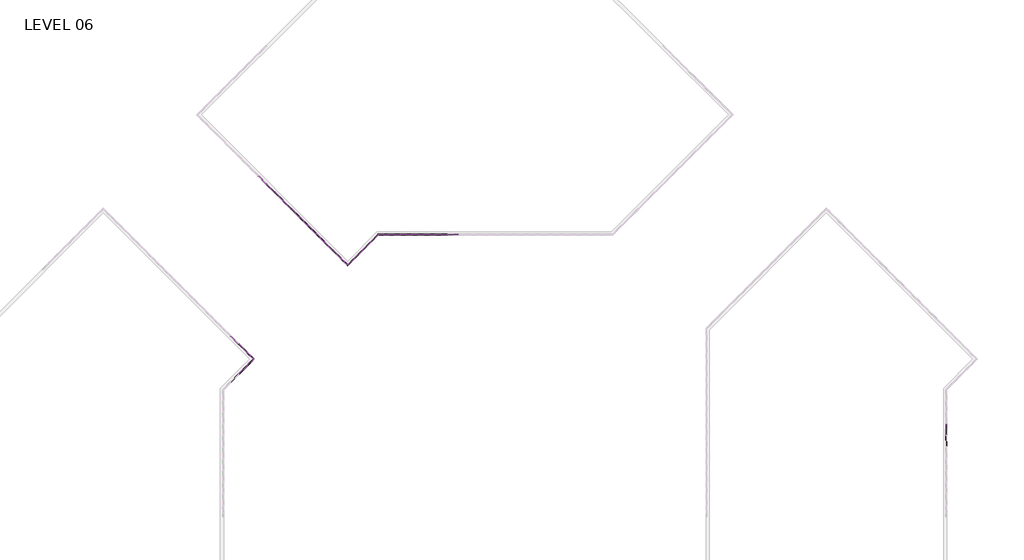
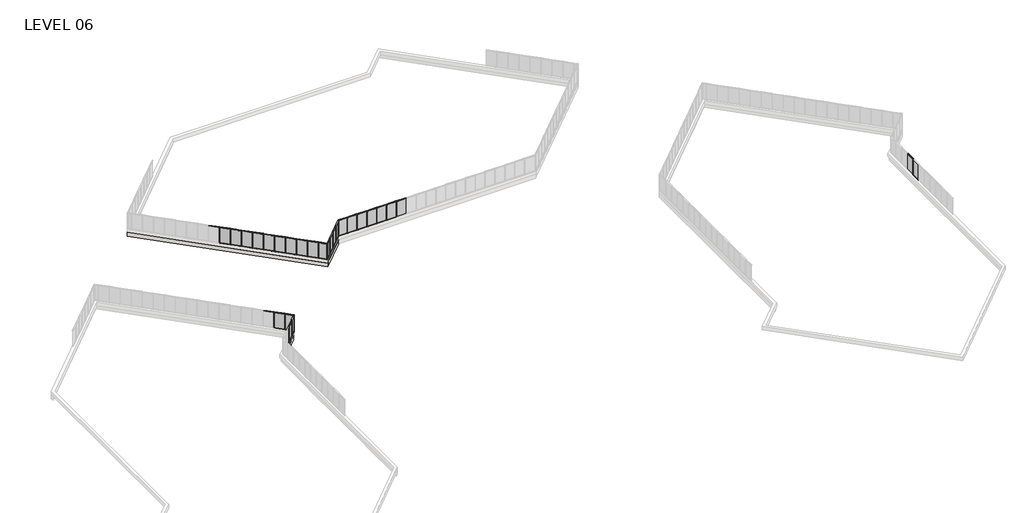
# One storey, part 12 of 17: 84 members, 27 plates, 3 walls.
"""IFC4 building model written with IfcOpenShell, lengths in millimetres."""

from ifc_helpers import new_model, si_unit, frame, origin, place, context, project, spatial, polyline, outline, extrude, faceted_brep, transform, mapped, element, save
from components import member_5247f267, member_e44af9ab, member_800970d4, member_45eb7f2e, member_910c08c9, member_dd9f6d43, plate_67294edd, plate_9c66726c, plate_88df3e37, plate_c3b8b83d, plate_129ab9d0, plate_6ecefdb5

model = new_model("IFC4")

# Units and contexts
model_context = context("Model", 3, world=origin())
ifc_project = project(units=[si_unit("LENGTHUNIT", "METRE", prefix="MILLI")], contexts=[model_context])

# Site, building, storey
site = spatial("IfcSite", under=ifc_project)
building = spatial("IfcBuilding", under=site)
storey = spatial("IfcBuildingStorey", under=building, Name="LEVEL 06", Elevation=19596.1)

# Members
placement = place(None, origin())
member_shape = member_5247f267(model_context)
element("IfcMember", 1, ObjectType="Rectangular Mullion : 2\" x 4.5\" rectangular", at=placement, inside=storey, context=model_context, shape_type="MappedRepresentation", body=[
    mapped(member_shape, transform((6200.5095063, 93365.536663, 19596.1), x_axis=(0.0, 0.0, -1.0), y_axis=(-0.7071067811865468, -0.7071067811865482, 0.0), z_axis=(-0.7071067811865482, 0.7071067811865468, 0.0))),
])
element("IfcMember", 2, ObjectType="Rectangular Mullion : 2\" x 4.5\" rectangular", at=placement, inside=storey, context=model_context, shape_type="MappedRepresentation", body=[
    mapped(member_shape, transform((7278.1402408, 92287.9059285, 19596.1), x_axis=(0.0, 0.0, -1.0), y_axis=(-0.7071067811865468, -0.7071067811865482, 0.0), z_axis=(-0.7071067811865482, 0.7071067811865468, 0.0))),
])
element("IfcMember", 3, ObjectType="Rectangular Mullion : 2\" x 4.5\" rectangular", at=placement, inside=storey, context=model_context, shape_type="MappedRepresentation", body=[
    mapped(member_shape, transform((8355.7709754, 91210.2751939, 19596.1), x_axis=(0.0, 0.0, -1.0), y_axis=(-0.7071067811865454, -0.7071067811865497, 0.0), z_axis=(-0.7071067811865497, 0.7071067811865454, 0.0))),
])
element("IfcMember", 4, ObjectType="Rectangular Mullion : 2\" x 4.5\" rectangular", at=placement, inside=storey, context=model_context, shape_type="MappedRepresentation", body=[
    mapped(member_shape, transform((9433.4017099, 90132.6444594, 19596.1), x_axis=(0.0, 0.0, -1.0), y_axis=(-0.7071067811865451, -0.7071067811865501, 0.0), z_axis=(-0.7071067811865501, 0.7071067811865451, 0.0))),
])
element("IfcMember", 5, ObjectType="Rectangular Mullion : 2\" x 4.5\" rectangular", at=placement, inside=storey, context=model_context, shape_type="MappedRepresentation", body=[
    mapped(member_shape, transform((10511.0324444, 89055.0137249, 19596.1), x_axis=(0.0, 0.0, -1.0), y_axis=(-0.7071067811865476, -0.7071067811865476, 0.0), z_axis=(-0.7071067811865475, 0.7071067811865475, 0.0))),
])
element("IfcMember", 6, ObjectType="Rectangular Mullion : 2\" x 4.5\" rectangular", at=placement, inside=storey, context=model_context, shape_type="MappedRepresentation", body=[
    mapped(member_shape, transform((11588.663179, 87977.3829903, 19596.1), x_axis=(0.0, 0.0, -1.0), y_axis=(-0.7071067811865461, -0.707106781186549, 0.0), z_axis=(-0.707106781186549, 0.7071067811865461, 0.0))),
])
element("IfcMember", 7, ObjectType="Rectangular Mullion : 2\" x 4.5\" rectangular", at=placement, inside=storey, context=model_context, shape_type="MappedRepresentation", body=[
    mapped(member_shape, transform((12666.2939135, 86899.7522558, 19596.1), x_axis=(0.0, 0.0, -1.0), y_axis=(-0.7071067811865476, -0.7071067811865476, 0.0), z_axis=(-0.7071067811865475, 0.7071067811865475, 0.0))),
])
element("IfcMember", 8, ObjectType="Rectangular Mullion : 2\" x 4.5\" rectangular", at=placement, inside=storey, context=model_context, shape_type="MappedRepresentation", body=[
    mapped(member_shape, transform((15463.8924855, 85858.0386548, 19596.1), x_axis=(0.0, 0.0, -1.0), y_axis=(0.7071067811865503, -0.7071067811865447, 0.0), z_axis=(-0.7071067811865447, -0.7071067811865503, 0.0))),
])
element("IfcMember", 9, ObjectType="Rectangular Mullion : 2\" x 4.5\" rectangular", at=placement, inside=storey, context=model_context, shape_type="MappedRepresentation", body=[
    mapped(member_shape, transform((16541.5232201, 86935.6693894, 19596.1), x_axis=(0.0, 0.0, -1.0), y_axis=(0.7071067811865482, -0.7071067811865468, 0.0), z_axis=(-0.7071067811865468, -0.7071067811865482, 0.0))),
])
element("IfcMember", 10, ObjectType="Rectangular Mullion : 2\" x 4.5\" rectangular", at=placement, inside=storey, context=model_context, shape_type="MappedRepresentation", body=[
    mapped(member_shape, transform((27514.55, 88955.8023049, 19596.1), x_axis=(0.0, 0.0, -1.0), y_axis=(0.0, 1.0, 0.0), z_axis=(1.0, 0.0, 0.0))),
])
element("IfcMember", 11, ObjectType="Rectangular Mullion : 2\" x 4.5\" rectangular", at=placement, inside=storey, context=model_context, shape_type="MappedRepresentation", body=[
    mapped(member_shape, transform((24466.55, 88955.8023049, 19596.1), x_axis=(0.0, 0.0, -1.0), y_axis=(0.0, 1.0, 0.0), z_axis=(1.0, 0.0, 0.0))),
])
element("IfcMember", 12, ObjectType="Rectangular Mullion : 2\" x 4.5\" rectangular", at=placement, inside=storey, context=model_context, shape_type="MappedRepresentation", body=[
    mapped(member_shape, transform((22942.55, 88955.8023049, 19596.1), x_axis=(0.0, 0.0, -1.0), y_axis=(0.0, 1.0, 0.0), z_axis=(1.0, 0.0, 0.0))),
])
element("IfcMember", 13, ObjectType="Rectangular Mullion : 2\" x 4.5\" rectangular", at=placement, inside=storey, context=model_context, shape_type="MappedRepresentation", body=[
    mapped(member_shape, transform((21418.55, 88955.8023049, 19596.1), x_axis=(0.0, 0.0, -1.0), y_axis=(0.0, 1.0, 0.0), z_axis=(1.0, 0.0, 0.0))),
])
element("IfcMember", 14, ObjectType="Rectangular Mullion : 2\" x 4.5\" rectangular", at=placement, inside=storey, context=model_context, shape_type="MappedRepresentation", body=[
    mapped(member_shape, transform((25990.55, 88955.8023049, 19596.1), x_axis=(0.0, 0.0, -1.0), y_axis=(0.0, 1.0, 0.0), z_axis=(1.0, 0.0, 0.0))),
])
element("IfcMember", 15, ObjectType="Rectangular Mullion : 2\" x 4.5\" rectangular", at=placement, inside=storey, context=model_context, shape_type="MappedRepresentation", body=[
    mapped(member_shape, transform((4009.6843581, 95556.3618112, 22186.9), x_axis=(0.0, 0.0, 1.0), y_axis=(-0.7071067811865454, -0.7071067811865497, 0.0), z_axis=(0.7071067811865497, -0.7071067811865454, 0.0))),
])
element("IfcMember", 16, ObjectType="Rectangular Mullion : 2\" x 4.5\" rectangular", at=placement, inside=storey, context=model_context, shape_type="MappedRepresentation", body=[
    mapped(member_shape, transform((7242.2192164, 92323.8269529, 22186.9), x_axis=(0.0, 0.0, 1.0), y_axis=(-0.7071067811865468, -0.7071067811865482, 0.0), z_axis=(0.7071067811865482, -0.7071067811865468, 0.0))),
])
element("IfcMember", 17, ObjectType="Rectangular Mullion : 2\" x 4.5\" rectangular", at=placement, inside=storey, context=model_context, shape_type="MappedRepresentation", body=[
    mapped(member_shape, transform((8319.8499509, 91246.1962184, 22186.9), x_axis=(0.0, 0.0, 1.0), y_axis=(-0.7071067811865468, -0.7071067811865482, 0.0), z_axis=(0.7071067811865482, -0.7071067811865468, 0.0))),
])
element("IfcMember", 18, ObjectType="Rectangular Mullion : 2\" x 4.5\" rectangular", at=placement, inside=storey, context=model_context, shape_type="MappedRepresentation", body=[
    mapped(member_shape, transform((9397.4806854, 90168.5654839, 22186.9), x_axis=(0.0, 0.0, 1.0), y_axis=(-0.7071067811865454, -0.7071067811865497, 0.0), z_axis=(0.7071067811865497, -0.7071067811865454, 0.0))),
])
element("IfcMember", 19, ObjectType="Rectangular Mullion : 2\" x 4.5\" rectangular", at=placement, inside=storey, context=model_context, shape_type="MappedRepresentation", body=[
    mapped(member_shape, transform((10475.1114199, 89090.9347494, 22186.9), x_axis=(0.0, 0.0, 1.0), y_axis=(-0.7071067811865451, -0.7071067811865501, 0.0), z_axis=(0.7071067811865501, -0.7071067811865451, 0.0))),
])
element("IfcMember", 20, ObjectType="Rectangular Mullion : 2\" x 4.5\" rectangular", at=placement, inside=storey, context=model_context, shape_type="MappedRepresentation", body=[
    mapped(member_shape, transform((11552.7421545, 88013.3040148, 22186.9), x_axis=(0.0, 0.0, 1.0), y_axis=(-0.7071067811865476, -0.7071067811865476, 0.0), z_axis=(0.7071067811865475, -0.7071067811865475, 0.0))),
])
element("IfcMember", 21, ObjectType="Rectangular Mullion : 2\" x 4.5\" rectangular", at=placement, inside=storey, context=model_context, shape_type="MappedRepresentation", body=[
    mapped(member_shape, transform((12630.372889, 86935.6732803, 22186.9), x_axis=(0.0, 0.0, 1.0), y_axis=(-0.7071067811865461, -0.707106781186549, 0.0), z_axis=(0.707106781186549, -0.7071067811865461, 0.0))),
])
element("IfcMember", 22, ObjectType="Rectangular Mullion : 2\" x 4.5\" rectangular", at=placement, inside=storey, context=model_context, shape_type="MappedRepresentation", body=[
    mapped(member_shape, transform((13708.0036235, 85858.0425458, 22186.9), x_axis=(0.0, 0.0, 1.0), y_axis=(-0.7071067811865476, -0.7071067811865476, 0.0), z_axis=(0.7071067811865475, -0.7071067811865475, 0.0))),
])
element("IfcMember", 23, ObjectType="Rectangular Mullion : 2\" x 4.5\" rectangular", at=placement, inside=storey, context=model_context, shape_type="MappedRepresentation", body=[
    mapped(member_shape, transform((17583.2329301, 87977.3790994, 22186.9), x_axis=(0.0, 0.0, 1.0), y_axis=(0.7071067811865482, -0.7071067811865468, 0.0), z_axis=(0.7071067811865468, 0.7071067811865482, 0.0))),
])
element("IfcMember", 24, ObjectType="Rectangular Mullion : 2\" x 4.5\" rectangular", at=placement, inside=storey, context=model_context, shape_type="MappedRepresentation", body=[
    mapped(member_shape, transform((16505.6021956, 86899.7483649, 22186.9), x_axis=(0.0, 0.0, 1.0), y_axis=(0.7071067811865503, -0.7071067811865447, 0.0), z_axis=(0.7071067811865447, 0.7071067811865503, 0.0))),
])
element("IfcMember", 25, ObjectType="Rectangular Mullion : 2\" x 4.5\" rectangular", at=placement, inside=storey, context=model_context, shape_type="MappedRepresentation", body=[
    mapped(member_shape, transform((27565.35, 88955.8023049, 22186.9), x_axis=(0.0, 0.0, 1.0), y_axis=(0.0, 1.0, 0.0), z_axis=(-1.0, 0.0, 0.0))),
])
element("IfcMember", 26, ObjectType="Rectangular Mullion : 2\" x 4.5\" rectangular", at=placement, inside=storey, context=model_context, shape_type="MappedRepresentation", body=[
    mapped(member_shape, transform((24517.35, 88955.8023049, 22186.9), x_axis=(0.0, 0.0, 1.0), y_axis=(0.0, 1.0, 0.0), z_axis=(-1.0, 0.0, 0.0))),
])
element("IfcMember", 27, ObjectType="Rectangular Mullion : 2\" x 4.5\" rectangular", at=placement, inside=storey, context=model_context, shape_type="MappedRepresentation", body=[
    mapped(member_shape, transform((22993.35, 88955.8023049, 22186.9), x_axis=(0.0, 0.0, 1.0), y_axis=(0.0, 1.0, 0.0), z_axis=(-1.0, 0.0, 0.0))),
])
element("IfcMember", 28, ObjectType="Rectangular Mullion : 2\" x 4.5\" rectangular", at=placement, inside=storey, context=model_context, shape_type="MappedRepresentation", body=[
    mapped(member_shape, transform((21469.35, 88955.8023049, 22186.9), x_axis=(0.0, 0.0, 1.0), y_axis=(0.0, 1.0, 0.0), z_axis=(-1.0, 0.0, 0.0))),
])
element("IfcMember", 29, ObjectType="Rectangular Mullion : 2\" x 4.5\" rectangular", at=placement, inside=storey, context=model_context, shape_type="MappedRepresentation", body=[
    mapped(member_shape, transform((19945.35, 88955.8023049, 22186.9), x_axis=(0.0, 0.0, 1.0), y_axis=(0.0, 1.0, 0.0), z_axis=(-1.0, 0.0, 0.0))),
])
element("IfcMember", 30, ObjectType="Rectangular Mullion : 2\" x 4.5\" rectangular", at=placement, inside=storey, context=model_context, shape_type="MappedRepresentation", body=[
    mapped(member_shape, transform((26041.35, 88955.8023049, 22186.9), x_axis=(0.0, 0.0, 1.0), y_axis=(0.0, 1.0, 0.0), z_axis=(-1.0, 0.0, 0.0))),
])
member_2_shape = member_e44af9ab(model_context)
element("IfcMember", 31, ObjectType="Rectangular Mullion : 2\" x 4.5\" rectangular", at=placement, inside=storey, context=model_context, shape_type="MappedRepresentation", body=[
    mapped(member_2_shape, transform((4027.6448703, 95538.401299, 19596.1), x_axis=(0.7071067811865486, -0.7071067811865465, 0.0), y_axis=(-0.7071067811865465, -0.7071067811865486, 0.0), z_axis=(0.0, 0.0, -1.0))),
])
element("IfcMember", 32, ObjectType="Rectangular Mullion : 2\" x 4.5\" rectangular", at=placement, inside=storey, context=model_context, shape_type="MappedRepresentation", body=[
    mapped(member_2_shape, transform((6182.5489941, 93383.4971752, 19596.1), x_axis=(0.7071067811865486, -0.7071067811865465, 0.0), y_axis=(-0.7071067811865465, -0.7071067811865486, 0.0), z_axis=(0.0, 0.0, -1.0))),
])
element("IfcMember", 33, ObjectType="Rectangular Mullion : 2\" x 4.5\" rectangular", at=placement, inside=storey, context=model_context, shape_type="MappedRepresentation", body=[
    mapped(member_2_shape, transform((7260.1797286, 92305.8664407, 19596.1), x_axis=(0.7071067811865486, -0.7071067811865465, 0.0), y_axis=(-0.7071067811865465, -0.7071067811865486, 0.0), z_axis=(0.0, 0.0, -1.0))),
])
element("IfcMember", 34, ObjectType="Rectangular Mullion : 2\" x 4.5\" rectangular", at=placement, inside=storey, context=model_context, shape_type="MappedRepresentation", body=[
    mapped(member_2_shape, transform((8337.8104631, 91228.2357062, 19596.1), x_axis=(0.7071067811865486, -0.7071067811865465, 0.0), y_axis=(-0.7071067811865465, -0.7071067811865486, 0.0), z_axis=(0.0, 0.0, -1.0))),
])
element("IfcMember", 35, ObjectType="Rectangular Mullion : 2\" x 4.5\" rectangular", at=placement, inside=storey, context=model_context, shape_type="MappedRepresentation", body=[
    mapped(member_2_shape, transform((5105.0969322, 94460.9492371, 19596.1), x_axis=(0.7071067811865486, -0.7071067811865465, 0.0), y_axis=(-0.7071067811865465, -0.7071067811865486, 0.0), z_axis=(0.0, 0.0, -1.0))),
])
element("IfcMember", 36, ObjectType="Rectangular Mullion : 2\" x 4.5\" rectangular", at=placement, inside=storey, context=model_context, shape_type="MappedRepresentation", body=[
    mapped(member_2_shape, transform((9415.4411977, 90150.6049716, 19596.1), x_axis=(0.7071067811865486, -0.7071067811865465, 0.0), y_axis=(-0.7071067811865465, -0.7071067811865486, 0.0), z_axis=(0.0, 0.0, -1.0))),
])
element("IfcMember", 37, ObjectType="Rectangular Mullion : 2\" x 4.5\" rectangular", at=placement, inside=storey, context=model_context, shape_type="MappedRepresentation", body=[
    mapped(member_2_shape, transform((10493.0719322, 89072.9742371, 19596.1), x_axis=(0.7071067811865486, -0.7071067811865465, 0.0), y_axis=(-0.7071067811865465, -0.7071067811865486, 0.0), z_axis=(0.0, 0.0, -1.0))),
])
element("IfcMember", 38, ObjectType="Rectangular Mullion : 2\" x 4.5\" rectangular", at=placement, inside=storey, context=model_context, shape_type="MappedRepresentation", body=[
    mapped(member_2_shape, transform((11570.7026667, 87995.3435026, 19596.1), x_axis=(0.7071067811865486, -0.7071067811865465, 0.0), y_axis=(-0.7071067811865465, -0.7071067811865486, 0.0), z_axis=(0.0, 0.0, -1.0))),
])
element("IfcMember", 39, ObjectType="Rectangular Mullion : 2\" x 4.5\" rectangular", at=placement, inside=storey, context=model_context, shape_type="MappedRepresentation", body=[
    mapped(member_2_shape, transform((12648.3334012, 86917.7127681, 19596.1), x_axis=(0.7071067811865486, -0.7071067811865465, 0.0), y_axis=(-0.7071067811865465, -0.7071067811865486, 0.0), z_axis=(0.0, 0.0, -1.0))),
])
element("IfcMember", 40, ObjectType="Rectangular Mullion : 2\" x 4.5\" rectangular", at=placement, inside=storey, context=model_context, shape_type="MappedRepresentation", body=[
    mapped(member_2_shape, transform((13725.9641358, 85840.0820335, 19596.1), x_axis=(0.7071067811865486, -0.7071067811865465, 0.0), y_axis=(-0.7071067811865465, -0.7071067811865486, 0.0), z_axis=(0.0, 0.0, -1.0))),
])
element("IfcMember", 41, ObjectType="Rectangular Mullion : 2\" x 4.5\" rectangular", at=placement, inside=storey, context=model_context, shape_type="MappedRepresentation", body=[
    mapped(member_2_shape, transform((15445.9319733, 85840.0781426, 19596.1), x_axis=(0.7071067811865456, 0.7071067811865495, 0.0), y_axis=(0.7071067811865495, -0.7071067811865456, 0.0), z_axis=(0.0, 0.0, -1.0))),
])
element("IfcMember", 42, ObjectType="Rectangular Mullion : 2\" x 4.5\" rectangular", at=placement, inside=storey, context=model_context, shape_type="MappedRepresentation", body=[
    mapped(member_2_shape, transform((17601.1934424, 87995.3396117, 19596.1), x_axis=(0.7071067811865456, 0.7071067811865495, 0.0), y_axis=(0.7071067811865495, -0.7071067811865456, 0.0), z_axis=(0.0, 0.0, -1.0))),
])
element("IfcMember", 43, ObjectType="Rectangular Mullion : 2\" x 4.5\" rectangular", at=placement, inside=storey, context=model_context, shape_type="MappedRepresentation", body=[
    mapped(member_2_shape, transform((16523.5627078, 86917.7088771, 19596.1), x_axis=(0.7071067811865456, 0.7071067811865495, 0.0), y_axis=(0.7071067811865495, -0.7071067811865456, 0.0), z_axis=(0.0, 0.0, -1.0))),
])
element("IfcMember", 44, ObjectType="Rectangular Mullion : 2\" x 4.5\" rectangular", at=placement, inside=storey, context=model_context, shape_type="MappedRepresentation", body=[
    mapped(member_2_shape, transform((27539.95, 88955.8023049, 19596.1), x_axis=(-1.0, 0.0, 0.0), y_axis=(0.0, 1.0, 0.0), z_axis=(0.0, 0.0, -1.0))),
])
element("IfcMember", 45, ObjectType="Rectangular Mullion : 2\" x 4.5\" rectangular", at=placement, inside=storey, context=model_context, shape_type="MappedRepresentation", body=[
    mapped(member_2_shape, transform((24491.95, 88955.8023049, 19596.1), x_axis=(-1.0, 0.0, 0.0), y_axis=(0.0, 1.0, 0.0), z_axis=(0.0, 0.0, -1.0))),
])
element("IfcMember", 46, ObjectType="Rectangular Mullion : 2\" x 4.5\" rectangular", at=placement, inside=storey, context=model_context, shape_type="MappedRepresentation", body=[
    mapped(member_2_shape, transform((22967.95, 88955.8023049, 19596.1), x_axis=(-1.0, 0.0, 0.0), y_axis=(0.0, 1.0, 0.0), z_axis=(0.0, 0.0, -1.0))),
])
element("IfcMember", 47, ObjectType="Rectangular Mullion : 2\" x 4.5\" rectangular", at=placement, inside=storey, context=model_context, shape_type="MappedRepresentation", body=[
    mapped(member_2_shape, transform((21443.95, 88955.8023049, 19596.1), x_axis=(-1.0, 0.0, 0.0), y_axis=(0.0, 1.0, 0.0), z_axis=(0.0, 0.0, -1.0))),
])
element("IfcMember", 48, ObjectType="Rectangular Mullion : 2\" x 4.5\" rectangular", at=placement, inside=storey, context=model_context, shape_type="MappedRepresentation", body=[
    mapped(member_2_shape, transform((19919.95, 88955.8023049, 19596.1), x_axis=(-1.0, 0.0, 0.0), y_axis=(0.0, 1.0, 0.0), z_axis=(0.0, 0.0, -1.0))),
])
element("IfcMember", 49, ObjectType="Rectangular Mullion : 2\" x 4.5\" rectangular", at=placement, inside=storey, context=model_context, shape_type="MappedRepresentation", body=[
    mapped(member_2_shape, transform((26015.95, 88955.8023049, 19596.1), x_axis=(-1.0, 0.0, 0.0), y_axis=(0.0, 1.0, 0.0), z_axis=(0.0, 0.0, -1.0))),
])
member_3_shape = member_800970d4(model_context)
element("IfcMember", 50, ObjectType="Rectangular Mullion : 2\" x 4.5\" rectangular", at=placement, inside=storey, context=model_context, shape_type="MappedRepresentation", body=[
    mapped(member_3_shape, transform((14585.95, 84980.0961693, 19596.1), x_axis=(0.7071067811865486, -0.7071067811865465, 0.0), y_axis=(-0.7071067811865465, -0.7071067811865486, 0.0), z_axis=(0.0, 0.0, -1.0))),
])
element("IfcMember", 51, ObjectType="Rectangular Mullion : 2\" x 4.5\" rectangular", at=placement, inside=storey, context=model_context, shape_type="MappedRepresentation", body=[
    mapped(member_3_shape, transform((18561.6561356, 88955.8023049, 19596.1), x_axis=(0.7071067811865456, 0.7071067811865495, 0.0), y_axis=(0.7071067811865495, -0.7071067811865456, 0.0), z_axis=(0.0, 0.0, -1.0))),
])
element("IfcMember", 52, ObjectType="Rectangular Mullion : 2\" x 4.5\" rectangular", at=placement, inside=storey, context=model_context, shape_type="MappedRepresentation", body=[
    mapped(member_3_shape, transform((18561.6561356, 88955.8023049, 19596.1), x_axis=(-1.0, 0.0, 0.0), y_axis=(0.0, 1.0, 0.0), z_axis=(0.0, 0.0, -1.0))),
])
element("IfcMember", 53, ObjectType="Rectangular Mullion : 2\" x 4.5\" rectangular", at=placement, inside=storey, context=model_context, shape_type="MappedRepresentation", body=[
    mapped(member_3_shape, transform((14585.95, 84980.0961693, 22186.9), x_axis=(-0.7071067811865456, -0.7071067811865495, 0.0), y_axis=(0.7071067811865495, -0.7071067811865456, 0.0), z_axis=(0.0, 0.0, 1.0))),
])
member_4_shape = member_45eb7f2e(model_context)
element("IfcMember", 54, ObjectType="Rectangular Mullion : 2\" x 4.5\" rectangular", at=placement, inside=storey, context=model_context, shape_type="MappedRepresentation", body=[
    mapped(member_4_shape, transform((18525.7351111, 88919.8812804, 22186.9), x_axis=(0.0, 0.0, 1.0), y_axis=(0.7071067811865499, -0.7071067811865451, 0.0), z_axis=(0.7071067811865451, 0.7071067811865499, 0.0))),
])
element("IfcMember", 55, ObjectType="Rectangular Mullion : 2\" x 4.5\" rectangular", at=placement, inside=storey, context=model_context, shape_type="MappedRepresentation", body=[
    mapped(member_4_shape, transform((18612.4561356, 88955.8023049, 22186.9), x_axis=(0.0, 0.0, 1.0), y_axis=(0.0, 1.0, 0.0), z_axis=(-1.0, 0.0, 0.0))),
])
element("IfcMember", 56, ObjectType="Rectangular Mullion : 2\" x 4.5\" rectangular", at=placement, inside=storey, context=model_context, shape_type="MappedRepresentation", body=[
    mapped(member_4_shape, transform((17619.1539546, 88013.3001239, 19596.1), x_axis=(0.0, 0.0, -1.0), y_axis=(0.7071067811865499, -0.7071067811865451, 0.0), z_axis=(-0.7071067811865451, -0.7071067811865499, 0.0))),
])
element("IfcMember", 57, ObjectType="Rectangular Mullion : 2\" x 4.5\" rectangular", at=placement, inside=storey, context=model_context, shape_type="MappedRepresentation", body=[
    mapped(member_4_shape, transform((19894.55, 88955.8023049, 19596.1), x_axis=(0.0, 0.0, -1.0), y_axis=(0.0, 1.0, 0.0), z_axis=(1.0, 0.0, 0.0))),
])
member_5_shape = member_910c08c9(model_context)
element("IfcMember", 58, ObjectType="Rectangular Mullion : 2\" x 4.5\" rectangular", at=placement, inside=storey, context=model_context, shape_type="MappedRepresentation", body=[
    mapped(member_5_shape, transform((6164.5884818, 93401.4576875, 22186.9), x_axis=(0.0, 0.0, 1.0), y_axis=(-0.7071067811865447, -0.7071067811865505, 0.0), z_axis=(0.7071067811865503, -0.7071067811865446, 0.0))),
])
element("IfcMember", 59, ObjectType="Rectangular Mullion : 2\" x 4.5\" rectangular", at=placement, inside=storey, context=model_context, shape_type="MappedRepresentation", body=[
    mapped(member_5_shape, transform((5087.1364199, 94478.9097494, 22186.9), x_axis=(0.0, 0.0, 1.0), y_axis=(-0.7071067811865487, -0.7071067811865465, 0.0), z_axis=(0.7071067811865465, -0.7071067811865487, 0.0))),
])
element("IfcMember", 60, ObjectType="Rectangular Mullion : 2\" x 4.5\" rectangular", at=placement, inside=storey, context=model_context, shape_type="MappedRepresentation", body=[
    mapped(member_5_shape, transform((4045.6053825, 95520.4407868, 19596.1), x_axis=(0.0, 0.0, -1.0), y_axis=(-0.7071067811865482, -0.7071067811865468, 0.0), z_axis=(-0.7071067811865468, 0.7071067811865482, 0.0))),
])
element("IfcMember", 61, ObjectType="Rectangular Mullion : 2\" x 4.5\" rectangular", at=placement, inside=storey, context=model_context, shape_type="MappedRepresentation", body=[
    mapped(member_5_shape, transform((5123.0574444, 94442.9887249, 19596.1), x_axis=(0.0, 0.0, -1.0), y_axis=(-0.7071067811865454, -0.7071067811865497, 0.0), z_axis=(-0.7071067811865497, 0.7071067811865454, 0.0))),
])
member_6_shape = member_dd9f6d43(model_context)
element("IfcMember", 62, ObjectType="Rectangular Mullion : 2\" x 4.5\" rectangular", at=placement, inside=storey, context=model_context, shape_type="MappedRepresentation", body=[
    mapped(member_6_shape, transform((14550.0289755, 85016.0171938, 22186.9), x_axis=(0.0, 0.0, 1.0), y_axis=(-0.7071067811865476, -0.7071067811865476, 0.0), z_axis=(0.7071067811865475, -0.7071067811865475, 0.0))),
])
element("IfcMember", 63, ObjectType="Rectangular Mullion : 2\" x 4.5\" rectangular", at=placement, inside=storey, context=model_context, shape_type="MappedRepresentation", body=[
    mapped(member_6_shape, transform((15427.9714611, 85822.1176304, 22186.9), x_axis=(0.0, 0.0, 1.0), y_axis=(0.7071067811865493, -0.7071067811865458, 0.0), z_axis=(0.7071067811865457, 0.7071067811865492, 0.0))),
])
element("IfcMember", 64, ObjectType="Rectangular Mullion : 2\" x 4.5\" rectangular", at=placement, inside=storey, context=model_context, shape_type="MappedRepresentation", body=[
    mapped(member_6_shape, transform((13743.924648, 85822.1215213, 19596.1), x_axis=(0.0, 0.0, -1.0), y_axis=(-0.7071067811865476, -0.7071067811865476, 0.0), z_axis=(-0.7071067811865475, 0.7071067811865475, 0.0))),
])
element("IfcMember", 65, ObjectType="Rectangular Mullion : 2\" x 4.5\" rectangular", at=placement, inside=storey, context=model_context, shape_type="MappedRepresentation", body=[
    mapped(member_6_shape, transform((14621.8710245, 85016.0171938, 19596.1), x_axis=(0.0, 0.0, -1.0), y_axis=(0.7071067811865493, -0.7071067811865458, 0.0), z_axis=(-0.7071067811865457, -0.7071067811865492, 0.0))),
])
element("IfcMember", 66, ObjectType="Rectangular Mullion : 2\" x 4.5\" rectangular", at=placement, inside=storey, context=model_context, shape_type="MappedRepresentation", body=[
    mapped(member_shape, transform((92435.9347164, 62877.3675885, 22186.9), x_axis=(0.0, 0.0, 1.0), y_axis=(-1.0, 0.0, 0.0), z_axis=(0.0, -1.0, 0.0))),
])
element("IfcMember", 67, ObjectType="Rectangular Mullion : 2\" x 4.5\" rectangular", at=placement, inside=storey, context=model_context, shape_type="MappedRepresentation", body=[
    mapped(member_shape, transform((408.2443082, 74713.5446995, 22186.9), x_axis=(0.0, 0.0, 1.0), y_axis=(-0.7071067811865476, -0.7071067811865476, 0.0), z_axis=(0.7071067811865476, -0.7071067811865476, 0.0))),
])
element("IfcMember", 68, ObjectType="Rectangular Mullion : 2\" x 4.5\" rectangular", at=placement, inside=storey, context=model_context, shape_type="MappedRepresentation", body=[
    mapped(member_shape, transform((1485.8750428, 73635.913965, 22186.9), x_axis=(0.0, 0.0, 1.0), y_axis=(-0.7071067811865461, -0.707106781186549, 0.0), z_axis=(0.707106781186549, -0.7071067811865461, 0.0))),
])
element("IfcMember", 69, ObjectType="Rectangular Mullion : 2\" x 4.5\" rectangular", at=placement, inside=storey, context=model_context, shape_type="MappedRepresentation", body=[
    mapped(member_shape, transform((444.1692236, 70838.3153929, 22186.9), x_axis=(0.0, 0.0, 1.0), y_axis=(-0.7071067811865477, 0.7071067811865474, 0.0), z_axis=(-0.7071067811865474, -0.7071067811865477, 0.0))),
])
element("IfcMember", 70, ObjectType="Rectangular Mullion : 2\" x 4.5\" rectangular", at=placement, inside=storey, context=model_context, shape_type="MappedRepresentation", body=[
    mapped(member_shape, transform((92435.9347164, 62826.5675885, 19596.1), x_axis=(0.0, 0.0, -1.0), y_axis=(-1.0, 0.0, 0.0), z_axis=(0.0, 1.0, 0.0))),
])
element("IfcMember", 71, ObjectType="Rectangular Mullion : 2\" x 4.5\" rectangular", at=placement, inside=storey, context=model_context, shape_type="MappedRepresentation", body=[
    mapped(member_shape, transform((444.1653327, 74677.623675, 19596.1), x_axis=(0.0, 0.0, -1.0), y_axis=(-0.7071067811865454, -0.7071067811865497, 0.0), z_axis=(-0.7071067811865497, 0.7071067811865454, 0.0))),
])
element("IfcMember", 72, ObjectType="Rectangular Mullion : 2\" x 4.5\" rectangular", at=placement, inside=storey, context=model_context, shape_type="MappedRepresentation", body=[
    mapped(member_shape, transform((1485.8789337, 71880.025103, 19596.1), x_axis=(0.0, 0.0, -1.0), y_axis=(-0.7071067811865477, 0.7071067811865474, 0.0), z_axis=(0.7071067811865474, 0.7071067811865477, 0.0))),
])
element("IfcMember", 73, ObjectType="Rectangular Mullion : 2\" x 4.5\" rectangular", at=placement, inside=storey, context=model_context, shape_type="MappedRepresentation", body=[
    mapped(member_shape, transform((408.2481992, 70802.3943684, 19596.1), x_axis=(0.0, 0.0, -1.0), y_axis=(-0.7071067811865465, 0.7071067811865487, 0.0), z_axis=(0.7071067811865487, 0.7071067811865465, 0.0))),
])
element("IfcMember", 74, ObjectType="Rectangular Mullion : 2\" x 4.5\" rectangular", at=placement, inside=storey, context=model_context, shape_type="MappedRepresentation", body=[
    mapped(member_2_shape, transform((92435.9347164, 62851.9675885, 19596.1), x_axis=(0.0, -1.0, 0.0), y_axis=(-1.0, 0.0, 0.0), z_axis=(0.0, 0.0, -1.0))),
])
element("IfcMember", 75, ObjectType="Rectangular Mullion : 2\" x 4.5\" rectangular", at=placement, inside=storey, context=model_context, shape_type="MappedRepresentation", body=[
    mapped(member_2_shape, transform((426.2048205, 74695.5841873, 19596.1), x_axis=(0.707106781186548, -0.7071067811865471, 0.0), y_axis=(-0.7071067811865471, -0.707106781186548, 0.0), z_axis=(0.0, 0.0, -1.0))),
])
element("IfcMember", 76, ObjectType="Rectangular Mullion : 2\" x 4.5\" rectangular", at=placement, inside=storey, context=model_context, shape_type="MappedRepresentation", body=[
    mapped(member_2_shape, transform((1503.835555, 73617.9534527, 19596.1), x_axis=(0.707106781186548, -0.7071067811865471, 0.0), y_axis=(-0.7071067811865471, -0.707106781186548, 0.0), z_axis=(0.0, 0.0, -1.0))),
])
element("IfcMember", 77, ObjectType="Rectangular Mullion : 2\" x 4.5\" rectangular", at=placement, inside=storey, context=model_context, shape_type="MappedRepresentation", body=[
    mapped(member_2_shape, transform((1503.8394459, 71897.9856152, 19596.1), x_axis=(-0.707106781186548, -0.7071067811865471, 0.0), y_axis=(-0.7071067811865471, 0.707106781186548, 0.0), z_axis=(0.0, 0.0, -1.0))),
])
element("IfcMember", 78, ObjectType="Rectangular Mullion : 2\" x 4.5\" rectangular", at=placement, inside=storey, context=model_context, shape_type="MappedRepresentation", body=[
    mapped(member_2_shape, transform((426.2087114, 70820.3548807, 19596.1), x_axis=(-0.707106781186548, -0.7071067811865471, 0.0), y_axis=(-0.7071067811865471, 0.707106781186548, 0.0), z_axis=(0.0, 0.0, -1.0))),
])
element("IfcMember", 79, ObjectType="Rectangular Mullion : 2\" x 4.5\" rectangular", at=placement, inside=storey, context=model_context, shape_type="MappedRepresentation", body=[
    mapped(member_3_shape, transform((2363.8214192, 72757.9675885, 19596.1), x_axis=(0.707106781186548, -0.7071067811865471, 0.0), y_axis=(-0.7071067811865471, -0.707106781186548, 0.0), z_axis=(0.0, 0.0, -1.0))),
])
element("IfcMember", 80, ObjectType="Rectangular Mullion : 2\" x 4.5\" rectangular", at=placement, inside=storey, context=model_context, shape_type="MappedRepresentation", body=[
    mapped(member_3_shape, transform((2363.8214192, 72757.9675885, 22186.9), x_axis=(0.707106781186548, 0.7071067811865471, 0.0), y_axis=(-0.7071067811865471, 0.707106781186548, 0.0), z_axis=(0.0, 0.0, 1.0))),
])
element("IfcMember", 81, ObjectType="Rectangular Mullion : 2\" x 4.5\" rectangular", at=placement, inside=storey, context=model_context, shape_type="MappedRepresentation", body=[
    mapped(member_6_shape, transform((2327.9003947, 72793.888613, 22186.9), x_axis=(0.0, 0.0, 1.0), y_axis=(-0.7071067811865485, -0.7071067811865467, 0.0), z_axis=(0.7071067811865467, -0.7071067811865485, 0.0))),
])
element("IfcMember", 82, ObjectType="Rectangular Mullion : 2\" x 4.5\" rectangular", at=placement, inside=storey, context=model_context, shape_type="MappedRepresentation", body=[
    mapped(member_6_shape, transform((1521.7999582, 71915.9461275, 22186.9), x_axis=(0.0, 0.0, 1.0), y_axis=(-0.7071067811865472, 0.7071067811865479, 0.0), z_axis=(-0.7071067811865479, -0.7071067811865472, 0.0))),
])
element("IfcMember", 83, ObjectType="Rectangular Mullion : 2\" x 4.5\" rectangular", at=placement, inside=storey, context=model_context, shape_type="MappedRepresentation", body=[
    mapped(member_6_shape, transform((1521.7960672, 73599.9929405, 19596.1), x_axis=(0.0, 0.0, -1.0), y_axis=(-0.7071067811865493, -0.7071067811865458, 0.0), z_axis=(-0.7071067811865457, 0.7071067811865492, 0.0))),
])
element("IfcMember", 84, ObjectType="Rectangular Mullion : 2\" x 4.5\" rectangular", at=placement, inside=storey, context=model_context, shape_type="MappedRepresentation", body=[
    mapped(member_6_shape, transform((2327.9003947, 72722.046564, 19596.1), x_axis=(0.0, 0.0, -1.0), y_axis=(-0.7071067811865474, 0.7071067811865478, 0.0), z_axis=(0.7071067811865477, 0.7071067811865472, 0.0))),
])

# Plates
plate_shape = plate_67294edd(model_context)
element("IfcPlate", 85, ObjectType="System Panel : 1/4\" Glass", at=placement, inside=storey, context=model_context, shape_type="MappedRepresentation", body=[
    mapped(plate_shape, transform((6721.3643613, 92844.681808, 19646.9), x_axis=(0.7071067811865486, -0.7071067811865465, 0.0), y_axis=(0.7071067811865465, 0.7071067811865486, 0.0), z_axis=(0.0, 0.0, 1.0))),
])
element("IfcPlate", 86, ObjectType="System Panel : 1/4\" Glass", at=placement, inside=storey, context=model_context, shape_type="MappedRepresentation", body=[
    mapped(plate_shape, transform((7798.9950959, 91767.0510734, 19646.9), x_axis=(0.7071067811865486, -0.7071067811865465, 0.0), y_axis=(0.7071067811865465, 0.7071067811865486, 0.0), z_axis=(0.0, 0.0, 1.0))),
])
element("IfcPlate", 87, ObjectType="System Panel : 1/4\" Glass", at=placement, inside=storey, context=model_context, shape_type="MappedRepresentation", body=[
    mapped(plate_shape, transform((8876.6258304, 90689.4203389, 19646.9), x_axis=(0.7071067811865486, -0.7071067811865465, 0.0), y_axis=(0.7071067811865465, 0.7071067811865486, 0.0), z_axis=(0.0, 0.0, 1.0))),
])
element("IfcPlate", 88, ObjectType="System Panel : 1/4\" Glass", at=placement, inside=storey, context=model_context, shape_type="MappedRepresentation", body=[
    mapped(plate_shape, transform((9954.2565649, 89611.7896044, 19646.9), x_axis=(0.7071067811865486, -0.7071067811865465, 0.0), y_axis=(0.7071067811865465, 0.7071067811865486, 0.0), z_axis=(0.0, 0.0, 1.0))),
])
element("IfcPlate", 89, ObjectType="System Panel : 1/4\" Glass", at=placement, inside=storey, context=model_context, shape_type="MappedRepresentation", body=[
    mapped(plate_shape, transform((11031.8872995, 88534.1588698, 19646.9), x_axis=(0.7071067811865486, -0.7071067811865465, 0.0), y_axis=(0.7071067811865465, 0.7071067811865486, 0.0), z_axis=(0.0, 0.0, 1.0))),
])
element("IfcPlate", 90, ObjectType="System Panel : 1/4\" Glass", at=placement, inside=storey, context=model_context, shape_type="MappedRepresentation", body=[
    mapped(plate_shape, transform((12109.518034, 87456.5281353, 19646.9), x_axis=(0.7071067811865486, -0.7071067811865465, 0.0), y_axis=(0.7071067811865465, 0.7071067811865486, 0.0), z_axis=(0.0, 0.0, 1.0))),
])
element("IfcPlate", 91, ObjectType="System Panel : 1/4\" Glass", at=placement, inside=storey, context=model_context, shape_type="MappedRepresentation", body=[
    mapped(plate_shape, transform((13187.1487685, 86378.8974008, 19646.9), x_axis=(0.7071067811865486, -0.7071067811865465, 0.0), y_axis=(0.7071067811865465, 0.7071067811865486, 0.0), z_axis=(0.0, 0.0, 1.0))),
])
element("IfcPlate", 92, ObjectType="System Panel : 1/4\" Glass", at=placement, inside=storey, context=model_context, shape_type="MappedRepresentation", body=[
    mapped(plate_shape, transform((15984.7473406, 86378.8935099, 19646.9), x_axis=(0.7071067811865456, 0.7071067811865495, 0.0), y_axis=(-0.7071067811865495, 0.7071067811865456, 0.0), z_axis=(0.0, 0.0, 1.0))),
])
element("IfcPlate", 93, ObjectType="System Panel : 1/4\" Glass", at=placement, inside=storey, context=model_context, shape_type="MappedRepresentation", body=[
    mapped(plate_shape, transform((17062.3780751, 87456.5242444, 19646.9), x_axis=(0.7071067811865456, 0.7071067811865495, 0.0), y_axis=(-0.7071067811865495, 0.7071067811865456, 0.0), z_axis=(0.0, 0.0, 1.0))),
])
element("IfcPlate", 94, ObjectType="System Panel : 1/4\" Glass", at=placement, inside=storey, context=model_context, shape_type="MappedRepresentation", body=[
    mapped(plate_shape, transform((28301.95, 88955.8023049, 19646.9), x_axis=(-1.0, 0.0, 0.0), y_axis=(0.0, -1.0, 0.0), z_axis=(0.0, 0.0, 1.0))),
])
element("IfcPlate", 95, ObjectType="System Panel : 1/4\" Glass", at=placement, inside=storey, context=model_context, shape_type="MappedRepresentation", body=[
    mapped(plate_shape, transform((26777.95, 88955.8023049, 19646.9), x_axis=(-1.0, 0.0, 0.0), y_axis=(0.0, -1.0, 0.0), z_axis=(0.0, 0.0, 1.0))),
])
element("IfcPlate", 96, ObjectType="System Panel : 1/4\" Glass", at=placement, inside=storey, context=model_context, shape_type="MappedRepresentation", body=[
    mapped(plate_shape, transform((23729.95, 88955.8023049, 19646.9), x_axis=(-1.0, 0.0, 0.0), y_axis=(0.0, -1.0, 0.0), z_axis=(0.0, 0.0, 1.0))),
])
element("IfcPlate", 97, ObjectType="System Panel : 1/4\" Glass", at=placement, inside=storey, context=model_context, shape_type="MappedRepresentation", body=[
    mapped(plate_shape, transform((22205.95, 88955.8023049, 19646.9), x_axis=(-1.0, 0.0, 0.0), y_axis=(0.0, -1.0, 0.0), z_axis=(0.0, 0.0, 1.0))),
])
element("IfcPlate", 98, ObjectType="System Panel : 1/4\" Glass", at=placement, inside=storey, context=model_context, shape_type="MappedRepresentation", body=[
    mapped(plate_shape, transform((20681.95, 88955.8023049, 19646.9), x_axis=(-1.0, 0.0, 0.0), y_axis=(0.0, -1.0, 0.0), z_axis=(0.0, 0.0, 1.0))),
])
element("IfcPlate", 99, ObjectType="System Panel : 1/4\" Glass", at=placement, inside=storey, context=model_context, shape_type="MappedRepresentation", body=[
    mapped(plate_shape, transform((25253.95, 88955.8023049, 19646.9), x_axis=(-1.0, 0.0, 0.0), y_axis=(0.0, -1.0, 0.0), z_axis=(0.0, 0.0, 1.0))),
])
plate_2_shape = plate_9c66726c(model_context)
element("IfcPlate", 100, ObjectType="System Panel : 1/4\" Glass", at=placement, inside=storey, context=model_context, shape_type="MappedRepresentation", body=[
    mapped(plate_2_shape, transform((19253.5030678, 88955.8023049, 19646.9), x_axis=(-1.0, 0.0, 0.0), y_axis=(0.0, -1.0, 0.0), z_axis=(0.0, 0.0, 1.0))),
])
plate_3_shape = plate_88df3e37(model_context)
element("IfcPlate", 101, ObjectType="System Panel : 1/4\" Glass", at=placement, inside=storey, context=model_context, shape_type="MappedRepresentation", body=[
    mapped(plate_3_shape, transform((4566.3709012, 94999.6752681, 19646.9), x_axis=(0.7071067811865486, -0.7071067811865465, 0.0), y_axis=(0.7071067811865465, 0.7071067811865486, 0.0), z_axis=(0.0, 0.0, 1.0))),
])
element("IfcPlate", 102, ObjectType="System Panel : 1/4\" Glass", at=placement, inside=storey, context=model_context, shape_type="MappedRepresentation", body=[
    mapped(plate_3_shape, transform((5643.8229631, 93922.2232062, 19646.9), x_axis=(0.7071067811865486, -0.7071067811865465, 0.0), y_axis=(0.7071067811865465, 0.7071067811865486, 0.0), z_axis=(0.0, 0.0, 1.0))),
])
plate_4_shape = plate_c3b8b83d(model_context)
element("IfcPlate", 103, ObjectType="System Panel : 1/4\" Glass", at=placement, inside=storey, context=model_context, shape_type="MappedRepresentation", body=[
    mapped(plate_4_shape, transform((14146.9768118, 85419.0693575, 19646.9), x_axis=(0.7071067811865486, -0.7071067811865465, 0.0), y_axis=(0.7071067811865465, 0.7071067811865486, 0.0), z_axis=(0.0, 0.0, 1.0))),
])
plate_5_shape = plate_129ab9d0(model_context)
element("IfcPlate", 104, ObjectType="System Panel : 1/4\" Glass", at=placement, inside=storey, context=model_context, shape_type="MappedRepresentation", body=[
    mapped(plate_5_shape, transform((18072.4445329, 88466.5907022, 19646.9), x_axis=(0.7071067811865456, 0.7071067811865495, 0.0), y_axis=(-0.7071067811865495, 0.7071067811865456, 0.0), z_axis=(0.0, 0.0, 1.0))),
])
plate_6_shape = plate_6ecefdb5(model_context)
element("IfcPlate", 105, ObjectType="System Panel : 1/4\" Glass", at=placement, inside=storey, context=model_context, shape_type="MappedRepresentation", body=[
    mapped(plate_6_shape, transform((15024.9212428, 85419.0674121, 19646.9), x_axis=(0.7071067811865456, 0.7071067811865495, 0.0), y_axis=(-0.7071067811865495, 0.7071067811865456, 0.0), z_axis=(0.0, 0.0, 1.0))),
])
element("IfcPlate", 106, ObjectType="System Panel : 1/4\" Glass", at=placement, inside=storey, context=model_context, shape_type="MappedRepresentation", body=[
    mapped(plate_shape, transform((92435.9347164, 63613.9675885, 19646.9), x_axis=(0.0, -1.0, 0.0), y_axis=(1.0, 0.0, 0.0), z_axis=(0.0, 0.0, 1.0))),
])
element("IfcPlate", 107, ObjectType="System Panel : 1/4\" Glass", at=placement, inside=storey, context=model_context, shape_type="MappedRepresentation", body=[
    mapped(plate_shape, transform((92435.9347164, 62089.9675885, 19646.9), x_axis=(0.0, -1.0, 0.0), y_axis=(1.0, 0.0, 0.0), z_axis=(0.0, 0.0, 1.0))),
])
element("IfcPlate", 108, ObjectType="System Panel : 1/4\" Glass", at=placement, inside=storey, context=model_context, shape_type="MappedRepresentation", body=[
    mapped(plate_shape, transform((965.0201877, 74156.76882, 19646.9), x_axis=(0.707106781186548, -0.7071067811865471, 0.0), y_axis=(0.7071067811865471, 0.707106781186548, 0.0), z_axis=(0.0, 0.0, 1.0))),
])
element("IfcPlate", 109, ObjectType="System Panel : 1/4\" Glass", at=placement, inside=storey, context=model_context, shape_type="MappedRepresentation", body=[
    mapped(plate_shape, transform((965.0240787, 71359.170248, 19646.9), x_axis=(-0.707106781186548, -0.7071067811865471, 0.0), y_axis=(0.7071067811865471, -0.707106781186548, 0.0), z_axis=(0.0, 0.0, 1.0))),
])
element("IfcPlate", 110, ObjectType="System Panel : 1/4\" Glass", at=placement, inside=storey, context=model_context, shape_type="MappedRepresentation", body=[
    mapped(plate_6_shape, transform((1924.8501765, 72318.9963457, 19646.9), x_axis=(-0.707106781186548, -0.7071067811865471, 0.0), y_axis=(0.7071067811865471, -0.707106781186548, 0.0), z_axis=(0.0, 0.0, 1.0))),
])
element("IfcPlate", 111, ObjectType="System Panel : 1/4\" Glass", at=placement, inside=storey, context=model_context, shape_type="MappedRepresentation", body=[
    mapped(plate_4_shape, transform((1924.848231, 73196.9407768, 19646.9), x_axis=(0.707106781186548, -0.7071067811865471, 0.0), y_axis=(0.7071067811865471, 0.707106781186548, 0.0), z_axis=(0.0, 0.0, 1.0))),
])

# Walls
element("IfcWall", 112, ObjectType="01-CONCRETE-12", at=placement, inside=storey, context=model_context, shape_type="Brep", body=[
    faceted_brep([(14801.4761469, 85114.8000111, 18415.0), (14585.95, 85330.326158, 18415.0), (-4625.6011469, 104541.8773049, 18415.0), (-4841.1272938, 104757.4034518, 18415.0), (-4841.1272938, 104757.4034518, 19037.3), (-4625.6011469, 104541.8773049, 19037.3), (14585.95, 85330.326158, 19037.3), (14801.4761469, 85114.8000111, 19037.3), (14585.95, 84899.2738642, 18415.0), (14585.95, 84899.2738642, 19037.3), (-5056.6534407, 104541.8773049, 19037.3), (-5056.6534407, 104541.8773049, 18415.0)], [[[0, 1, 2, 3, 4, 5, 6, 7]], [[8, 9, 10, 11]], [[3, 2, 1, 0, 8, 11]], [[7, 6, 5, 4, 10, 9]], [[0, 7, 9, 8]], [[4, 3, 11, 10]]]),
])
element("IfcWall", 113, ObjectType="01-CONCRETE-12", at=placement, inside=storey, context=model_context, shape_type="SweptSolid", body=[
    extrude(outline(polyline([(14585.95, 85330.326158), (18154.2761469, 88898.6523049), (18585.3284407, 88898.6523049), (14801.4761469, 85114.8000111), (14585.95, 85330.326158)])), frame((0.0, 0.0, 18415.0), z_axis=(0.0, 0.0, 1.0), x_axis=(1.0, 0.0, 0.0)), (0.0, 0.0, 1.0), 622.3),
])
element("IfcWall", 114, ObjectType="01-CONCRETE-12", at=placement, inside=storey, context=model_context, shape_type="SweptSolid", body=[
    extrude(outline(polyline([(2229.1175774, 72542.4414416), (-1554.7347164, 68758.5891478), (-1554.7347164, 69189.6414416), (2013.5914305, 72757.9675885), (2229.1175774, 72542.4414416)])), frame((0.0, 0.0, 18415.0), z_axis=(0.0, 0.0, 1.0), x_axis=(1.0, 0.0, 0.0)), (0.0, 0.0, 1.0), 622.3),
])

save(model, "model.ifc")
